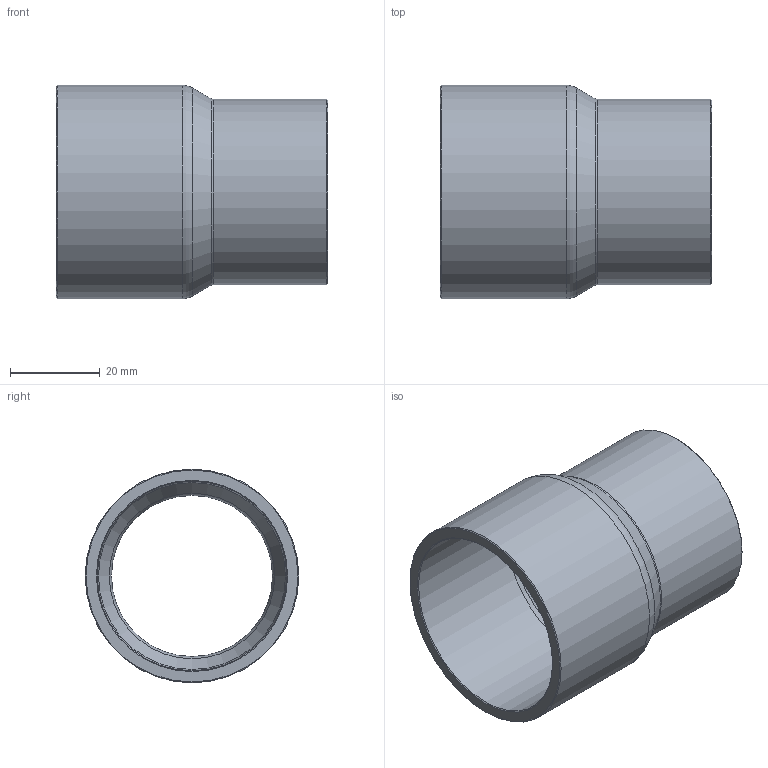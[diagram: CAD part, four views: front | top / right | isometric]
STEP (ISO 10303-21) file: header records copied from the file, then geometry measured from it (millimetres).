
FILE_DESCRIPTION((''),'2;1');
FILE_NAME('G:\SANHA-Ternat\Technik\Management\Bouwmaten + markeringen\z-maattekeningen 3D\29000s\29243IM15842_3d.stp','2017-08-07T11:56:52',('vdvijverd'),(''),'Autodesk Inventor 2009','Autodesk Inventor 2009','');
FILE_SCHEMA(('AUTOMOTIVE_DESIGN { 1 0 10303 214 1 1 1 1 }'));
Length unit declared in the file: millimetre
Products named in the file (1): 29243IM15842_3d
Bounding box: 60.5 x 47.58 x 47.58 mm (x, y, z)
Volume: 21751.2 mm3; surface area: 16765.2 mm2
Topology: 1 solids, 1 shells, 16 faces, 30 edges, 16 vertices
Faces by surface type: cone 6, cylinder 4, plane 2, torus 2, bspline 2
Full cylindrical faces by diameter (mm): 35.87 x1, 41.27 x1, 42.18 x1, 47.58 x1
Entity records: 434 total; most frequent: CARTESIAN_POINT 137, DIRECTION 62, ORIENTED_EDGE 32, EDGE_LOOP 32, AXIS2_PLACEMENT_3D 31, VERTEX_POINT 16, CIRCLE 16, EDGE_CURVE 16
